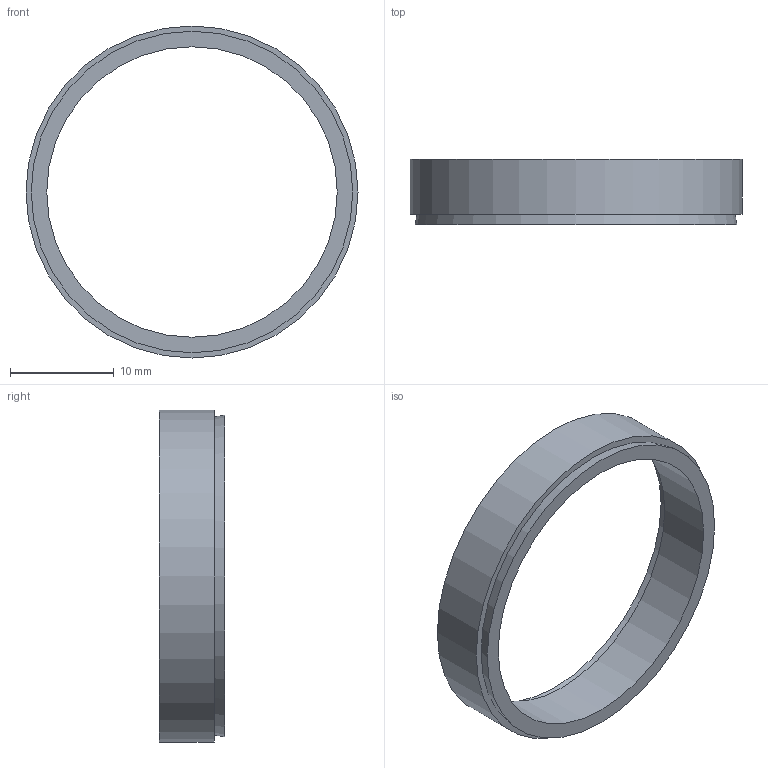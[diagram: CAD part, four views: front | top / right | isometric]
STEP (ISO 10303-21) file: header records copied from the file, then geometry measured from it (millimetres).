
FILE_DESCRIPTION( ( 'Unknown' ), '1' );
FILE_NAME( 'C:/Dokumente und Einstellungen/Sven/Desktop/homepage/cad - homepage/KBS50/KBS 50 - 28 x 32.stp', 'Unknown', ( 'Unknown' ), ( 'Unknown' ), 'XStep 1.0', 'Unknown', ' ' );
FILE_SCHEMA( ( 'automotive_design' ) );
Length unit declared in the file: millimetre
Products named in the file (1): 1
Bounding box: 32 x 6.3 x 32 mm (x, y, z)
Volume: 1078.3 mm3; surface area: 1596.8 mm2
Topology: 1 solids, 1 shells, 8 faces, 12 edges, 8 vertices
Faces by surface type: plane 4, cylinder 2, cone 2
Full cylindrical faces by diameter (mm): 28 x1, 32 x1
Entity records: 248 total; most frequent: DIRECTION 34, CARTESIAN_POINT 25, AXIS2_PLACEMENT_3D 17, EDGE_LOOP 16, ORIENTED_EDGE 16, FACE_OUTER_BOUND 10, STYLED_ITEM 8, PRESENTATION_STYLE_ASSIGNMENT 8
